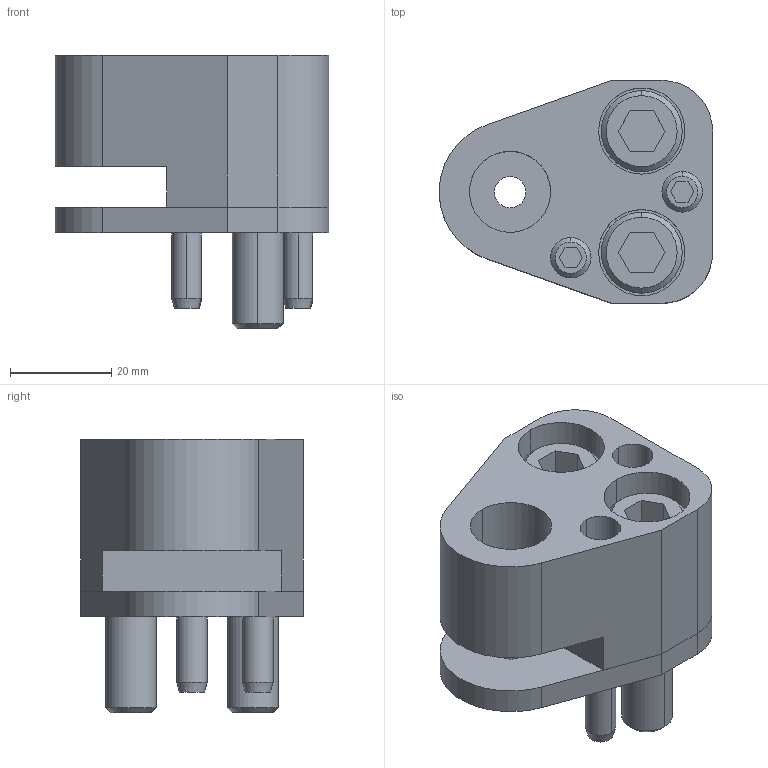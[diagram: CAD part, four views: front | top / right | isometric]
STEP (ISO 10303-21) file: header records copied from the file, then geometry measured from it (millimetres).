
FILE_DESCRIPTION(/* description */ (''),/* implementation_level */ '2;1');
FILE_NAME(/* name */ '3d_fp-fp16_03779_r00.stp',/* time_stamp */ '2011-01-10T14:15:35+09:00',/* author */ ('MISUMI'),/* organization */ (''),/* preprocessor_version */ 'ST-DEVELOPER v11',/* originating_system */ 'UGS - NX 5.0',/* authorisation */ '');
FILE_SCHEMA (('CONFIG_CONTROL_DESIGN'));
Length unit declared in the file: millimetre
Products named in the file (1): 3d_fp-fp16_03779_r00
Bounding box: 53.95 x 44 x 54 mm (x, y, z)
Volume: 55227.6 mm3; surface area: 23773.9 mm2
Topology: 8 solids, 8 shells, 154 faces, 352 edges, 227 vertices
Faces by surface type: plane 68, cylinder 60, cone 26
Entity records: 4516 total; most frequent: DIRECTION 802, CARTESIAN_POINT 793, ORIENTED_EDGE 704, EDGE_CURVE 352, AXIS2_PLACEMENT_3D 302, VERTEX_POINT 227, LINE 198, VECTOR 198
